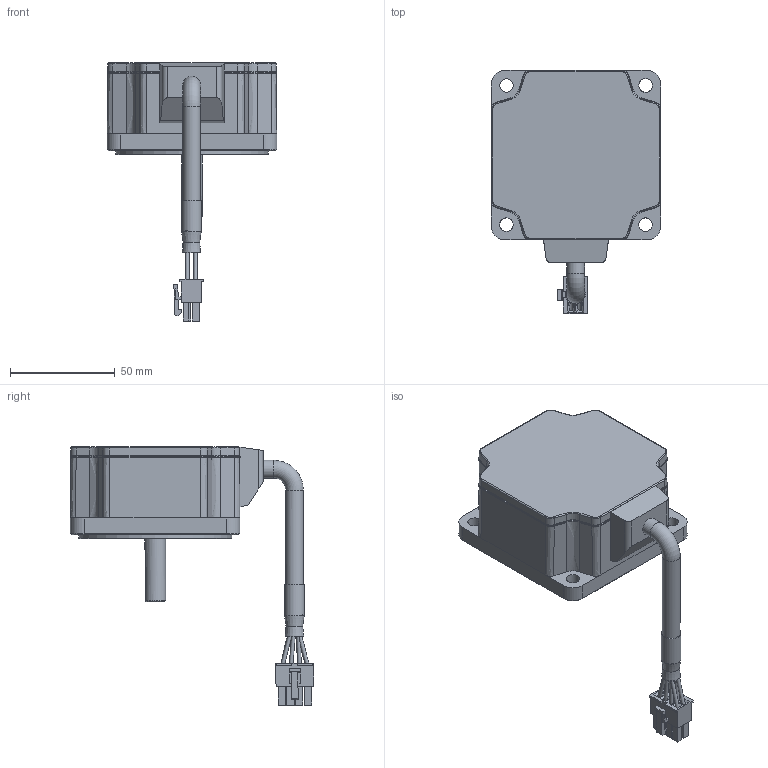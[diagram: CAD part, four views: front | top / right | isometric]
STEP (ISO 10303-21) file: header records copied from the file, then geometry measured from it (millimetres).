
FILE_DESCRIPTION((''),'2;1');
FILE_NAME('C:\Users\AHN\Desktop\BLDC 홈페이지용\K8XS50N2.stp','2020-08-20T17:24:55',('AHN'),(''),'Autodesk Inventor 2009','Autodesk Inventor 2009','');
FILE_SCHEMA(('AUTOMOTIVE_DESIGN { 1 0 10303 214 1 1 1 1 }'));
Length unit declared in the file: inch
Products named in the file (7): K8LS50N2; Solid1_2; Solid11_2; x타입 케이블; 부품35_1; 부품35_2; 하우징
Assembly tree (6 placements, depth 3):
  K8LS50N2
    Solid1_2
    Solid11_2
    x타입 케이블
      부품35_1
      부품35_2
      하우징
Bounding box: 81.1 x 116.26 x 123.45 mm (x, y, z)
Volume: 260404.1 mm3; surface area: 47307.4 mm2
Topology: 4 solids, 13 shells, 521 faces, 1341 edges, 858 vertices
Faces by surface type: plane 388, cylinder 81, cone 27, torus 13, bspline 12
Full cylindrical faces by diameter (mm): 1.75 x10, 3.5 x8, 6.5 x4, 8.5 x2, 9 x1, 9.4 x1, 10 x2, 73 x1, 75 x1
Entity records: 15788 total; most frequent: CARTESIAN_POINT 3078, ORIENTED_EDGE 2570, DIRECTION 2519, EDGE_CURVE 1285, VECTOR 1031, LINE 1031, VERTEX_POINT 846, AXIS2_PLACEMENT_3D 744
